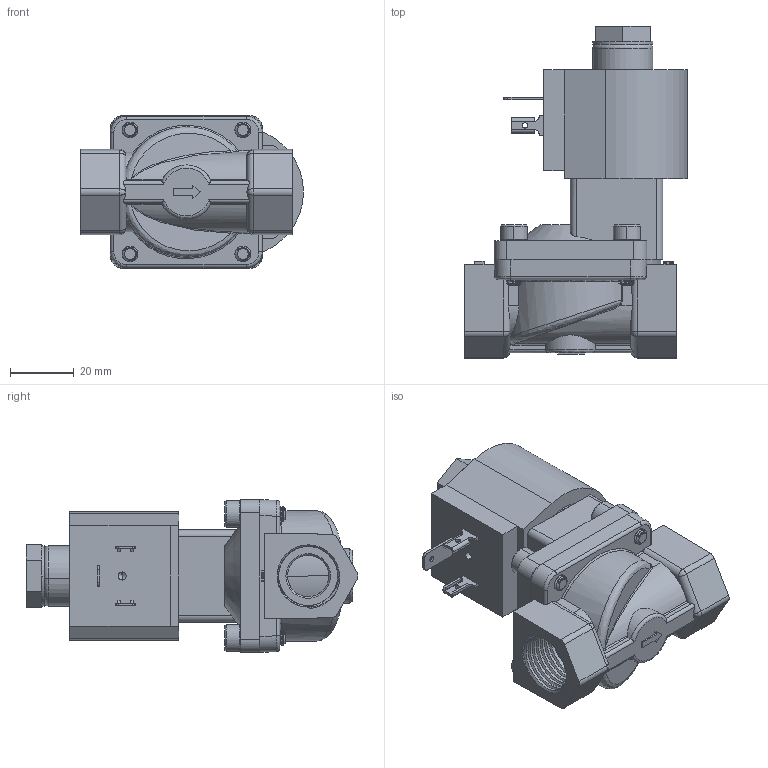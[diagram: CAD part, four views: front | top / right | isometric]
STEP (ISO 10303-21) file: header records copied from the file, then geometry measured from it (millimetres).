
FILE_DESCRIPTION (( 'STEP AP203' ), '1' );
FILE_NAME ('S712Yxxxx9DG1.STEP', '2024-12-23T19:42:01', ( '' ), ( '' ), 'SwSTEP 2.0', 'SolidWorks 2023', '' );
FILE_SCHEMA (( 'CONFIG_CONTROL_DESIGN' ));
Length unit declared in the file: millimetre
Products named in the file (1): S712Yxxxx9DG1
Bounding box: 70.12 x 104.4 x 48 mm (x, y, z)
Volume: 137292.9 mm3; surface area: 26306.3 mm2
Topology: 1 solids, 1 shells, 585 faces, 1515 edges, 949 vertices
Faces by surface type: plane 277, cylinder 184, cone 67, bspline 41, sphere 12, torus 4
Entity records: 35378 total; most frequent: CARTESIAN_POINT 22066, ORIENTED_EDGE 3000, DIRECTION 2402, EDGE_CURVE 1500, VERTEX_POINT 944, VECTOR 828, LINE 828, AXIS2_PLACEMENT_3D 787
